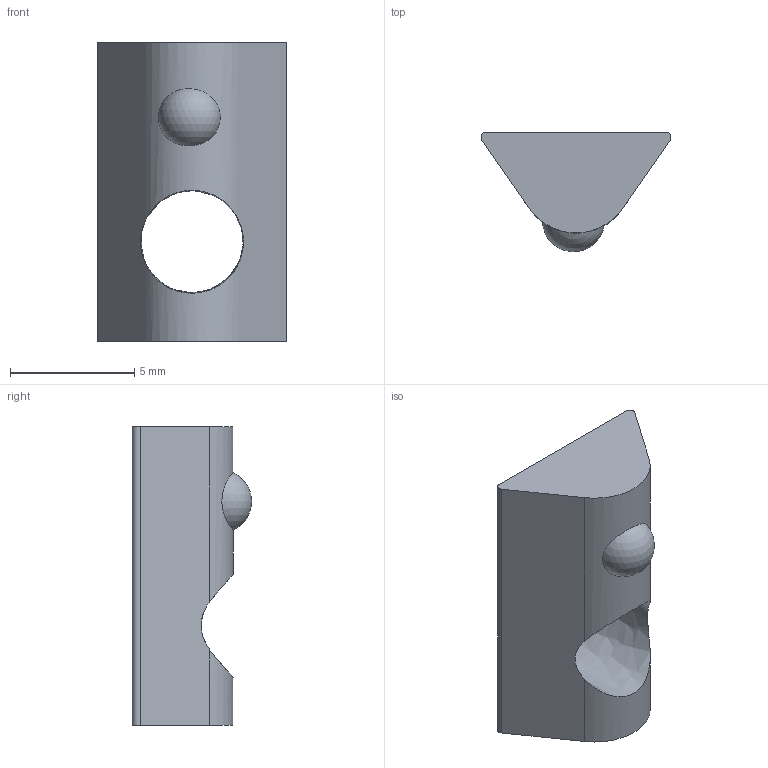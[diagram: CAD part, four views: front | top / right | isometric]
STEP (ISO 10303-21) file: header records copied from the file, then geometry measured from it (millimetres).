
FILE_DESCRIPTION((''),'2;1');
FILE_NAME('E:\catalogue and flyer\Profile catalogue 2015\Accessories JE info\Accessories-JE step file 31MAr16\JE-HRN5-6.stp','2016-03-31T16:01:15',('h029'),(''),'Autodesk Inventor 11','Autodesk Inventor 11','');
FILE_SCHEMA(('AUTOMOTIVE_DESIGN { 1 0 10303 214 1 1 1 1 }'));
Length unit declared in the file: millimetre
Products named in the file (1): JE-HRN5-6
Bounding box: 7.63 x 4.8 x 12 mm (x, y, z)
Volume: 197.1 mm3; surface area: 289.7 mm2
Topology: 1 solids, 1 shells, 11 faces, 28 edges, 19 vertices
Faces by surface type: plane 5, cylinder 4, bspline 1, sphere 1
Entity records: 470 total; most frequent: CARTESIAN_POINT 184, DIRECTION 54, ORIENTED_EDGE 52, EDGE_CURVE 26, AXIS2_PLACEMENT_3D 20, VERTEX_POINT 18, EDGE_LOOP 14, VECTOR 14
